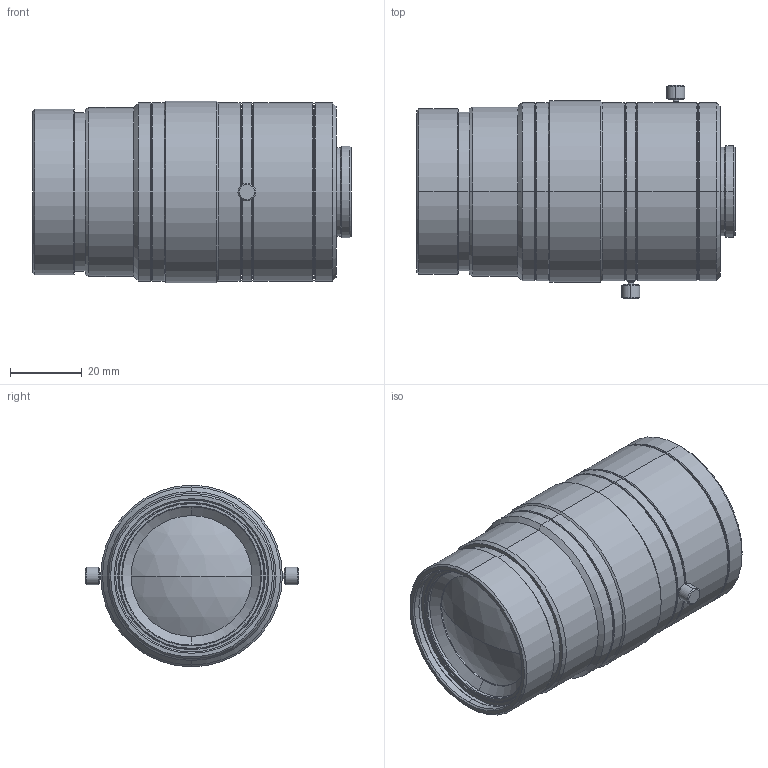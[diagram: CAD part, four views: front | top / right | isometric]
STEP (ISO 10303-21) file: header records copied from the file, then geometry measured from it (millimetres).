
FILE_DESCRIPTION (( 'STEP AP203' ), '1' );
FILE_NAME ('VS-LLD18.STEP', '2017-09-25T02:23:57', ( '' ), ( '' ), 'SwSTEP 2.0', 'SolidWorks 2017', '' );
FILE_SCHEMA (( 'CONFIG_CONTROL_DESIGN' ));
Length unit declared in the file: millimetre
Products named in the file (1): VS-LLD18
Bounding box: 88.47 x 59.35 x 50.5 mm (x, y, z)
Volume: 148062.4 mm3; surface area: 22946.3 mm2
Topology: 1 solids, 1 shells, 172 faces, 346 edges, 202 vertices
Faces by surface type: cone 86, cylinder 56, plane 26, sphere 4
Entity records: 4595 total; most frequent: DIRECTION 888, CARTESIAN_POINT 785, ORIENTED_EDGE 692, AXIS2_PLACEMENT_3D 373, EDGE_CURVE 346, VERTEX_POINT 202, CIRCLE 200, EDGE_LOOP 198
